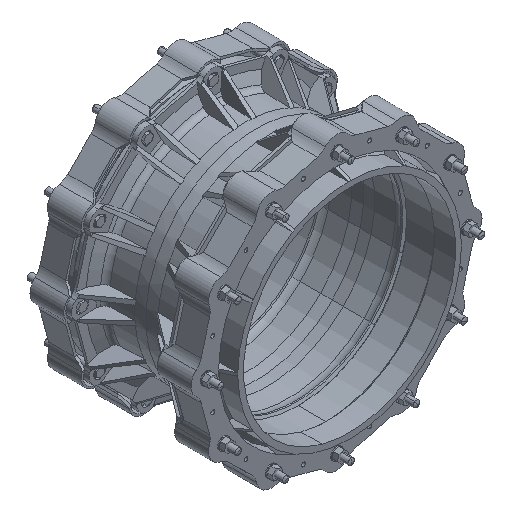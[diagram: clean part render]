
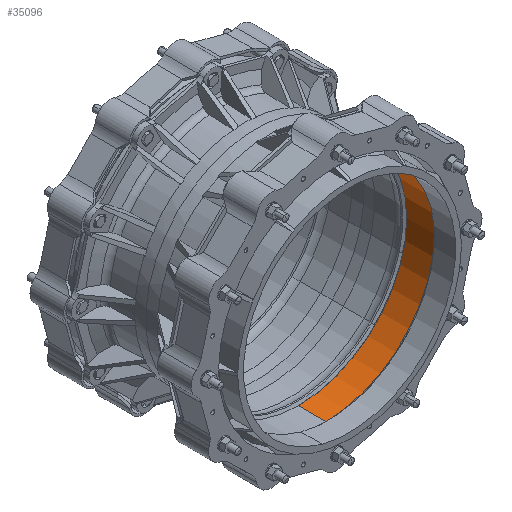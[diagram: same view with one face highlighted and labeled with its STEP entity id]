
A CAD part, isometric view. The second image highlights one B-rep face of the part: STEP entity #35096.
In plain terms, the highlighted cylindrical face has radius 333 mm (diameter 666 mm), a partial arc.
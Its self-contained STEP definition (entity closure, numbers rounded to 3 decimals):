
#34920=CARTESIAN_POINT('',(0.,-42.5,0.));
#34921=DIRECTION('',(0.,-1.,0.));
#34922=DIRECTION('',(0.,0.,-1.));
#34923=AXIS2_PLACEMENT_3D('',#34920,#34921,#34922);
#34930=DIRECTION('',(0.,-1.,0.));
#34931=VECTOR('',#34930,85.);
#34932=CARTESIAN_POINT('',(0.,42.5,-333.));
#34933=LINE('',#34932,#34931);
#34934=CARTESIAN_POINT('',(0.,42.5,0.));
#34935=DIRECTION('',(0.,-1.,0.));
#34936=DIRECTION('',(0.,0.,-1.));
#34937=AXIS2_PLACEMENT_3D('',#34934,#34935,#34936);
#34939=DIRECTION('',(0.,-1.,0.));
#34940=VECTOR('',#34939,85.);
#34941=CARTESIAN_POINT('',(0.,42.5,333.));
#34942=LINE('',#34941,#34940);
#34977=CARTESIAN_POINT('',(0.,42.5,-333.));
#34978=CARTESIAN_POINT('',(0.,-42.5,-333.));
#34979=VERTEX_POINT('',#34977);
#34980=VERTEX_POINT('',#34978);
#34987=CARTESIAN_POINT('',(0.,42.5,333.));
#34988=CARTESIAN_POINT('',(0.,-42.5,333.));
#34989=VERTEX_POINT('',#34987);
#34990=VERTEX_POINT('',#34988);
#35084=CARTESIAN_POINT('',(0.,-46.75,0.));
#35085=DIRECTION('',(0.,1.,0.));
#35086=DIRECTION('',(0.,0.,-1.));
#35087=AXIS2_PLACEMENT_3D('',#35084,#35085,#35086);
#35088=CYLINDRICAL_SURFACE('',#35087,333.);
#35089=ORIENTED_EDGE('',*,*,#35074,.F.);
#35091=ORIENTED_EDGE('',*,*,#35090,.T.);
#35092=ORIENTED_EDGE('',*,*,#35077,.T.);
#35093=ORIENTED_EDGE('',*,*,#35064,.F.);
#35094=EDGE_LOOP('',(#35089,#35091,#35092,#35093));
#35095=FACE_OUTER_BOUND('',#35094,.F.);
#35096=ADVANCED_FACE('',(#35095),#35088,.F.);
#34924=CIRCLE('',#34923,333.);
#34938=CIRCLE('',#34937,333.);
#35064=EDGE_CURVE('',#34980,#34990,#34924,.T.);
#35074=EDGE_CURVE('',#34979,#34980,#34933,.T.);
#35077=EDGE_CURVE('',#34989,#34990,#34942,.T.);
#35090=EDGE_CURVE('',#34979,#34989,#34938,.T.);
